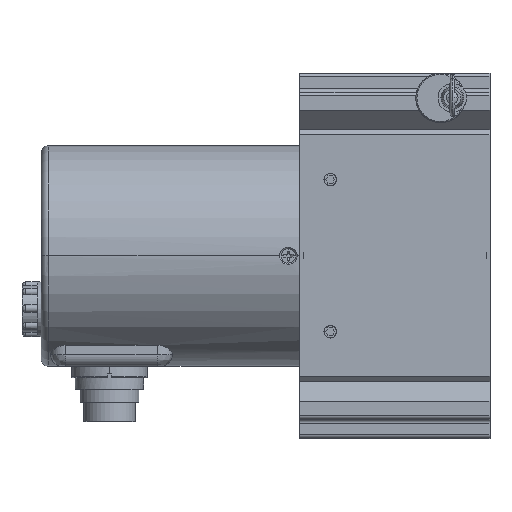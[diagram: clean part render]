
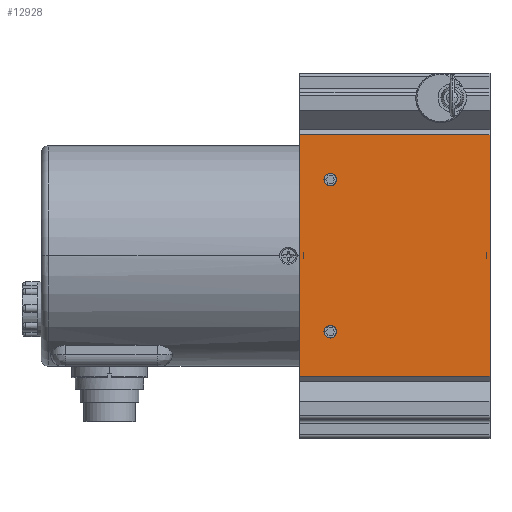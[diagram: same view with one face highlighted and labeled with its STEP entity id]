
A CAD part, top view. The second image highlights one B-rep face of the part: STEP entity #12928.
In plain terms, the highlighted planar face has unit normal (0, 0, 1).
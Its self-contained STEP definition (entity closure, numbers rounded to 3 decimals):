
#1770=DIRECTION('',(0.,-1.,0.));
#1771=VECTOR('',#1770,63.5);
#1772=CARTESIAN_POINT('',(-48.,31.75,48.));
#1773=LINE('',#1772,#1771);
#2986=DIRECTION('',(1.,0.,0.));
#2987=VECTOR('',#2986,50.);
#2988=CARTESIAN_POINT('',(-48.,-31.75,48.));
#2989=LINE('',#2988,#2987);
#2994=DIRECTION('',(1.,0.,0.));
#2995=VECTOR('',#2994,50.);
#2996=CARTESIAN_POINT('',(-48.,31.75,48.));
#2997=LINE('',#2996,#2995);
#2998=DIRECTION('',(0.,-1.,0.));
#2999=VECTOR('',#2998,63.5);
#3000=CARTESIAN_POINT('',(2.,31.75,48.));
#3001=LINE('',#3000,#2999);
#3002=CARTESIAN_POINT('',(-40.,20.,48.));
#3003=DIRECTION('',(0.,0.,1.));
#3004=DIRECTION('',(0.,1.,0.));
#3005=AXIS2_PLACEMENT_3D('',#3002,#3003,#3004);
#3007=CARTESIAN_POINT('',(-40.,20.,48.));
#3008=DIRECTION('',(0.,0.,1.));
#3009=DIRECTION('',(0.,-1.,0.));
#3010=AXIS2_PLACEMENT_3D('',#3007,#3008,#3009);
#3012=CARTESIAN_POINT('',(-40.,-20.,48.));
#3013=DIRECTION('',(0.,0.,1.));
#3014=DIRECTION('',(0.,1.,0.));
#3015=AXIS2_PLACEMENT_3D('',#3012,#3013,#3014);
#3017=CARTESIAN_POINT('',(-40.,-20.,48.));
#3018=DIRECTION('',(0.,0.,1.));
#3019=DIRECTION('',(0.,-1.,0.));
#3020=AXIS2_PLACEMENT_3D('',#3017,#3018,#3019);
#7431=CARTESIAN_POINT('',(-48.,31.75,48.));
#7432=VERTEX_POINT('',#7431);
#7433=CARTESIAN_POINT('',(-48.,-31.75,48.));
#7434=VERTEX_POINT('',#7433);
#7571=CARTESIAN_POINT('',(2.,-31.75,48.));
#7572=VERTEX_POINT('',#7571);
#7573=CARTESIAN_POINT('',(2.,31.75,48.));
#7574=VERTEX_POINT('',#7573);
#7687=CARTESIAN_POINT('',(-40.,21.65,48.));
#7688=CARTESIAN_POINT('',(-40.,18.35,48.));
#7689=VERTEX_POINT('',#7687);
#7690=VERTEX_POINT('',#7688);
#7691=CARTESIAN_POINT('',(-40.,-18.35,48.));
#7692=CARTESIAN_POINT('',(-40.,-21.65,48.));
#7693=VERTEX_POINT('',#7691);
#7694=VERTEX_POINT('',#7692);
#12904=CARTESIAN_POINT('',(-48.,-43.,48.));
#12905=DIRECTION('',(0.,0.,1.));
#12906=DIRECTION('',(0.,1.,0.));
#12907=AXIS2_PLACEMENT_3D('',#12904,#12905,#12906);
#12908=PLANE('',#12907);
#12909=ORIENTED_EDGE('',*,*,#12897,.F.);
#12910=ORIENTED_EDGE('',*,*,#11379,.F.);
#12912=ORIENTED_EDGE('',*,*,#12911,.T.);
#12913=ORIENTED_EDGE('',*,*,#11765,.T.);
#12914=EDGE_LOOP('',(#12909,#12910,#12912,#12913));
#12915=FACE_OUTER_BOUND('',#12914,.F.);
#12917=ORIENTED_EDGE('',*,*,#12916,.T.);
#12919=ORIENTED_EDGE('',*,*,#12918,.T.);
#12920=EDGE_LOOP('',(#12917,#12919));
#12921=FACE_BOUND('',#12920,.F.);
#12923=ORIENTED_EDGE('',*,*,#12922,.T.);
#12925=ORIENTED_EDGE('',*,*,#12924,.T.);
#12926=EDGE_LOOP('',(#12923,#12925));
#12927=FACE_BOUND('',#12926,.F.);
#12928=ADVANCED_FACE('',(#12915,#12921,#12927),#12908,.T.);
#3006=CIRCLE('',#3005,1.65);
#3011=CIRCLE('',#3010,1.65);
#3016=CIRCLE('',#3015,1.65);
#3021=CIRCLE('',#3020,1.65);
#11379=EDGE_CURVE('',#7432,#7434,#1773,.T.);
#11765=EDGE_CURVE('',#7574,#7572,#3001,.T.);
#12897=EDGE_CURVE('',#7434,#7572,#2989,.T.);
#12911=EDGE_CURVE('',#7432,#7574,#2997,.T.);
#12916=EDGE_CURVE('',#7689,#7690,#3006,.T.);
#12918=EDGE_CURVE('',#7690,#7689,#3011,.T.);
#12922=EDGE_CURVE('',#7693,#7694,#3016,.T.);
#12924=EDGE_CURVE('',#7694,#7693,#3021,.T.);
